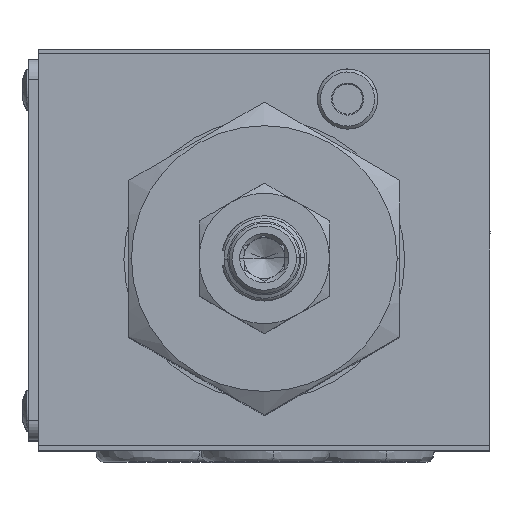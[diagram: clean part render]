
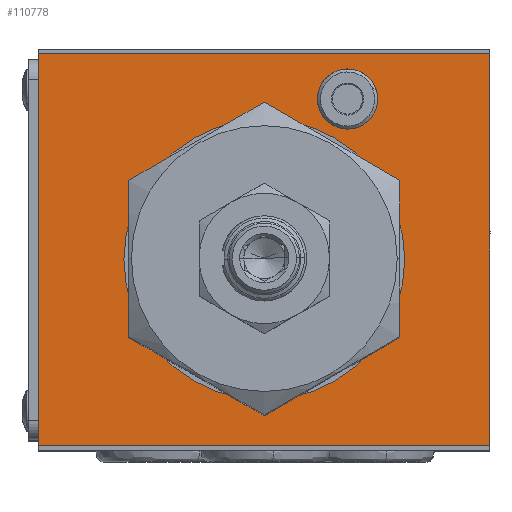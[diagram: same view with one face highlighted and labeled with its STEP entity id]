
A CAD part, top view. The second image highlights one B-rep face of the part: STEP entity #110778.
In plain terms, the highlighted planar face has unit normal (0, 0, 1).
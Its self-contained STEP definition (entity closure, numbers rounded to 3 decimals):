
#522 = CARTESIAN_POINT ( 'NONE',  ( -22.5, 19.5, 46.5 ) ) ;
#1921 = DIRECTION ( 'NONE',  ( 0., 0., 1. ) ) ;
#3437 = VERTEX_POINT ( 'NONE', #7345 ) ;
#5506 = CARTESIAN_POINT ( 'NONE',  ( 22.5, -19.5, 46.5 ) ) ;
#7345 = CARTESIAN_POINT ( 'NONE',  ( 22.5, 19.5, 46.5 ) ) ;
#11972 = EDGE_LOOP ( 'NONE', ( #27731, #109540 ) ) ;
#12955 = DIRECTION ( 'NONE',  ( 1., 0., 0. ) ) ;
#13716 = DIRECTION ( 'NONE',  ( 0., 0., 1. ) ) ;
#14549 = CARTESIAN_POINT ( 'NONE',  ( 22.5, 20., 46.5 ) ) ;
#15710 = CARTESIAN_POINT ( 'NONE',  ( 14., -1., 46.5 ) ) ;
#16182 = DIRECTION ( 'NONE',  ( 0., 0., 1. ) ) ;
#16476 = VERTEX_POINT ( 'NONE', #36027 ) ;
#16912 = EDGE_CURVE ( 'NONE', #30757, #104032, #36365, .T. ) ;
#17235 = EDGE_LOOP ( 'NONE', ( #103937, #98180, #82497, #20201 ) ) ;
#17267 = EDGE_CURVE ( 'NONE', #20057, #104032, #114070, .T. ) ;
#17700 = EDGE_LOOP ( 'NONE', ( #61731, #44389 ) ) ;
#18368 = DIRECTION ( 'NONE',  ( 1., 0., 0. ) ) ;
#20057 = VERTEX_POINT ( 'NONE', #24073 ) ;
#20201 = ORIENTED_EDGE ( 'NONE', *, *, #17267, .T. ) ;
#21652 = CARTESIAN_POINT ( 'NONE',  ( 22.5, -19.5, 46.5 ) ) ;
#23801 = DIRECTION ( 'NONE',  ( 0., 0., 1. ) ) ;
#24073 = CARTESIAN_POINT ( 'NONE',  ( -22.5, 19.5, 46.5 ) ) ;
#27731 = ORIENTED_EDGE ( 'NONE', *, *, #50370, .F. ) ;
#28333 = VECTOR ( 'NONE', #40664, 1000. ) ;
#28733 = EDGE_CURVE ( 'NONE', #30757, #3437, #100444, .T. ) ;
#30757 = VERTEX_POINT ( 'NONE', #21652 ) ;
#33018 = CARTESIAN_POINT ( 'NONE',  ( -22.5, 20., 46.5 ) ) ;
#36027 = CARTESIAN_POINT ( 'NONE',  ( 11.3, 15., 46.5 ) ) ;
#36173 = EDGE_CURVE ( 'NONE', #16476, #83943, #44214, .T. ) ;
#36365 = LINE ( 'NONE', #5506, #74561 ) ;
#39050 = PLANE ( 'NONE',  #112551 ) ;
#39874 = EDGE_CURVE ( 'NONE', #20057, #3437, #91689, .T. ) ;
#40664 = DIRECTION ( 'NONE',  ( 0., 1., 0. ) ) ;
#41918 = CARTESIAN_POINT ( 'NONE',  ( 8.3, 15., 46.5 ) ) ;
#44214 = CIRCLE ( 'NONE', #107410, 3. ) ;
#44389 = ORIENTED_EDGE ( 'NONE', *, *, #112087, .F. ) ;
#47397 = VERTEX_POINT ( 'NONE', #62115 ) ;
#48159 = CARTESIAN_POINT ( 'NONE',  ( -22.5, -20., 46.5 ) ) ;
#50370 = EDGE_CURVE ( 'NONE', #99345, #47397, #59966, .T. ) ;
#51363 = AXIS2_PLACEMENT_3D ( 'NONE', #60442, #23801, #77129 ) ;
#54431 = AXIS2_PLACEMENT_3D ( 'NONE', #67017, #13716, #12955 ) ;
#59966 = CIRCLE ( 'NONE', #51363, 14. ) ;
#60442 = CARTESIAN_POINT ( 'NONE',  ( 0., -1., 46.5 ) ) ;
#61731 = ORIENTED_EDGE ( 'NONE', *, *, #36173, .F. ) ;
#62115 = CARTESIAN_POINT ( 'NONE',  ( -14., -1., 46.5 ) ) ;
#64227 = CARTESIAN_POINT ( 'NONE',  ( 5.3, 15., 46.5 ) ) ;
#67017 = CARTESIAN_POINT ( 'NONE',  ( 0., -1., 46.5 ) ) ;
#68512 = DIRECTION ( 'NONE',  ( 1., 0., 0. ) ) ;
#71211 = FACE_OUTER_BOUND ( 'NONE', #17235, .T. ) ;
#74213 = DIRECTION ( 'NONE',  ( 1., 0., 0. ) ) ;
#74561 = VECTOR ( 'NONE', #77831, 1000. ) ;
#77129 = DIRECTION ( 'NONE',  ( 1., 0., 0. ) ) ;
#77831 = DIRECTION ( 'NONE',  ( -1., 0., 0. ) ) ;
#78416 = CARTESIAN_POINT ( 'NONE',  ( 8.3, 15., 46.5 ) ) ;
#80669 = CIRCLE ( 'NONE', #54431, 14. ) ;
#82497 = ORIENTED_EDGE ( 'NONE', *, *, #39874, .F. ) ;
#83943 = VERTEX_POINT ( 'NONE', #64227 ) ;
#87059 = EDGE_CURVE ( 'NONE', #47397, #99345, #80669, .T. ) ;
#87752 = DIRECTION ( 'NONE',  ( 1., 0., 0. ) ) ;
#91689 = LINE ( 'NONE', #522, #112865 ) ;
#95285 = FACE_BOUND ( 'NONE', #17700, .T. ) ;
#96273 = DIRECTION ( 'NONE',  ( 0., -1., 0. ) ) ;
#97324 = CARTESIAN_POINT ( 'NONE',  ( -22.5, -19.5, 46.5 ) ) ;
#98180 = ORIENTED_EDGE ( 'NONE', *, *, #28733, .T. ) ;
#99345 = VERTEX_POINT ( 'NONE', #15710 ) ;
#100444 = LINE ( 'NONE', #14549, #28333 ) ;
#103937 = ORIENTED_EDGE ( 'NONE', *, *, #16912, .F. ) ;
#104032 = VERTEX_POINT ( 'NONE', #97324 ) ;
#104058 = DIRECTION ( 'NONE',  ( 0., 0., 1. ) ) ;
#105798 = AXIS2_PLACEMENT_3D ( 'NONE', #78416, #104058, #68512 ) ;
#107410 = AXIS2_PLACEMENT_3D ( 'NONE', #41918, #16182, #87752 ) ;
#107962 = FACE_BOUND ( 'NONE', #11972, .T. ) ;
#109540 = ORIENTED_EDGE ( 'NONE', *, *, #87059, .F. ) ;
#109844 = VECTOR ( 'NONE', #96273, 1000. ) ;
#110778 = ADVANCED_FACE ( 'NONE', ( #95285, #107962, #71211 ), #39050, .T. ) ;
#112087 = EDGE_CURVE ( 'NONE', #83943, #16476, #112229, .T. ) ;
#112229 = CIRCLE ( 'NONE', #105798, 3. ) ;
#112551 = AXIS2_PLACEMENT_3D ( 'NONE', #48159, #1921, #74213 ) ;
#112865 = VECTOR ( 'NONE', #18368, 1000. ) ;
#114070 = LINE ( 'NONE', #33018, #109844 ) ;
